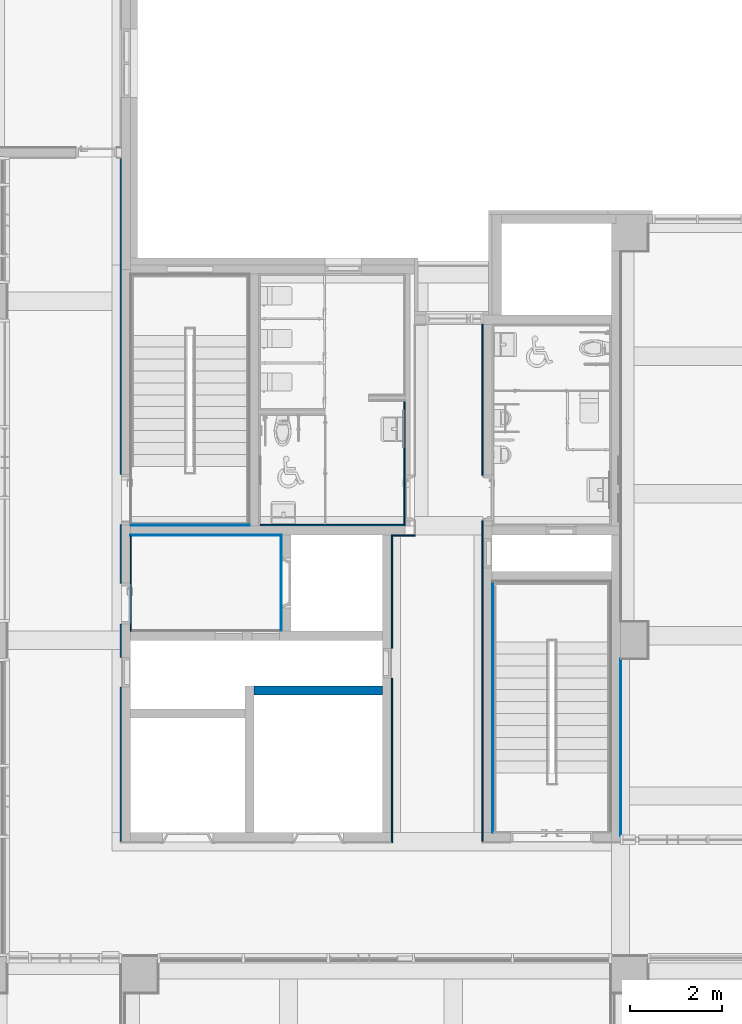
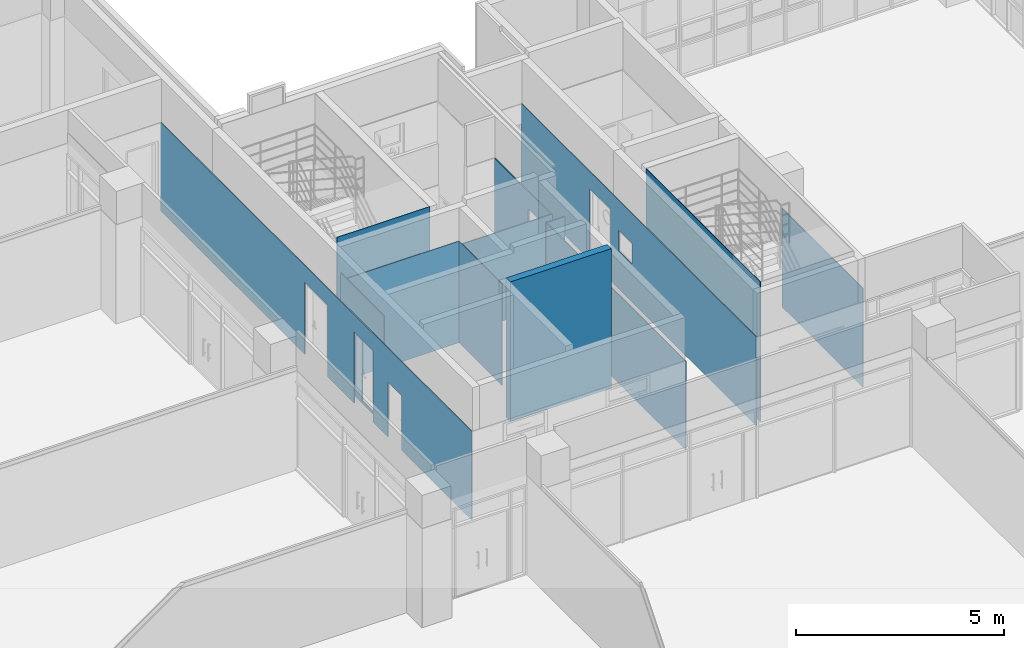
# One storey, part 52 of 76: 13 walls, 8 openings.
"""IFC2X3 building model written with IfcOpenShell, lengths in millimetres."""

from ifc_helpers import new_model, entity, si_unit, converted_unit, derived_unit, direction, frame, frame_2d, origin, place, context, subcontext, project, spatial, rectangle, extrude, material, layer, layer_set, layer_usage, type_object, element, save


model = new_model("IFC2X3")

# Units and contexts
model_context = context("Model", 3, precision=0.01, world=origin(), true_north=direction((6.123031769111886e-17, 1.0)))
body_context = subcontext(model_context, "Body", "Model", "MODEL_VIEW")
ifc_project = project(units=[si_unit("LENGTHUNIT", "METRE", prefix="MILLI"), si_unit("AREAUNIT", "SQUARE_METRE"), si_unit("VOLUMEUNIT", "CUBIC_METRE"), converted_unit("PLANEANGLEUNIT", "DEGREE", entity("IfcRatioMeasure", 0.017453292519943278), si_unit("PLANEANGLEUNIT", "RADIAN"), dimensions=[0, 0, 0, 0, 0, 0, 0]), si_unit("MASSUNIT", "GRAM", prefix="KILO"), derived_unit("MASSDENSITYUNIT", [(si_unit("MASSUNIT", "GRAM", prefix="KILO"), 1), (si_unit("LENGTHUNIT", "METRE"), -3)]), derived_unit("MOMENTOFINERTIAUNIT", [(si_unit("LENGTHUNIT", "METRE"), 4)]), si_unit("TIMEUNIT", "SECOND"), si_unit("FREQUENCYUNIT", "HERTZ"), si_unit("THERMODYNAMICTEMPERATUREUNIT", "DEGREE_CELSIUS"), derived_unit("THERMALTRANSMITTANCEUNIT", [(si_unit("MASSUNIT", "GRAM", prefix="KILO"), 1), (si_unit("THERMODYNAMICTEMPERATUREUNIT", "KELVIN"), -1), (si_unit("TIMEUNIT", "SECOND"), -3)]), derived_unit("VOLUMETRICFLOWRATEUNIT", [(si_unit("LENGTHUNIT", "METRE"), 3), (si_unit("TIMEUNIT", "SECOND"), -1)]), derived_unit("MASSFLOWRATEUNIT", [(si_unit("MASSUNIT", "GRAM", prefix="KILO"), 1), (si_unit("TIMEUNIT", "SECOND"), -1)]), derived_unit("ROTATIONALFREQUENCYUNIT", [(si_unit("TIMEUNIT", "SECOND"), -1)]), si_unit("ELECTRICCURRENTUNIT", "AMPERE"), si_unit("ELECTRICVOLTAGEUNIT", "VOLT"), si_unit("POWERUNIT", "WATT"), si_unit("FORCEUNIT", "NEWTON", prefix="KILO"), si_unit("ILLUMINANCEUNIT", "LUX"), si_unit("LUMINOUSFLUXUNIT", "LUMEN"), si_unit("LUMINOUSINTENSITYUNIT", "CANDELA"), derived_unit("USERDEFINED", [(si_unit("MASSUNIT", "GRAM", prefix="KILO"), -1), (si_unit("LENGTHUNIT", "METRE"), -2), (si_unit("TIMEUNIT", "SECOND"), 3), (si_unit("LUMINOUSFLUXUNIT", "LUMEN"), 1)]), derived_unit("SOUNDPOWERUNIT", [(si_unit("MASSUNIT", "GRAM", prefix="KILO"), 1), (si_unit("LENGTHUNIT", "METRE"), 2), (si_unit("TIMEUNIT", "SECOND"), -3)]), derived_unit("SOUNDPRESSUREUNIT", [(si_unit("MASSUNIT", "GRAM", prefix="KILO"), 1), (si_unit("LENGTHUNIT", "METRE"), -1), (si_unit("TIMEUNIT", "SECOND"), -2)]), derived_unit("LINEARVELOCITYUNIT", [(si_unit("LENGTHUNIT", "METRE"), 1), (si_unit("TIMEUNIT", "SECOND"), -1)]), si_unit("PRESSUREUNIT", "PASCAL"), derived_unit("USERDEFINED", [(si_unit("LENGTHUNIT", "METRE"), -2), (si_unit("MASSUNIT", "GRAM", prefix="KILO"), 1), (si_unit("TIMEUNIT", "SECOND"), -2)]), derived_unit("LINEARFORCEUNIT", [(si_unit("MASSUNIT", "GRAM", prefix="KILO"), 1), (si_unit("LENGTHUNIT", "METRE"), 1), (si_unit("TIMEUNIT", "SECOND"), -2), (si_unit("LENGTHUNIT", "METRE"), -1)]), derived_unit("PLANARFORCEUNIT", [(si_unit("MASSUNIT", "GRAM", prefix="KILO"), 1), (si_unit("LENGTHUNIT", "METRE"), 1), (si_unit("TIMEUNIT", "SECOND"), -2), (si_unit("LENGTHUNIT", "METRE"), -2)])], contexts=[model_context])

# Site, building, storey
site_placement = place(None, frame((-14167.972527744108, -657.2125860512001, 0.0)))
site = spatial("IfcSite", under=ifc_project, at=site_placement, Name="Default", CompositionType="ELEMENT")
building_placement = place(site_placement, origin())
building = spatial("IfcBuilding", under=site, at=building_placement, Name="Sample Building", CompositionType="ELEMENT")
storey_placement = place(building_placement, frame((0.0, 0.0, 9300.0)))
storey = spatial("IfcBuildingStorey", under=building, at=storey_placement, Name="지상 3층", CompositionType="ELEMENT", Elevation=9300.000000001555)

# Walls
ifc_material_1 = material(Name="KBIMS-콘크리트")
ifc_layer_1 = layer(ifc_material_1, 200.0)
ifc_layer_set_1 = layer_set([ifc_layer_1], Name="기본 벽:WA111-철근콘크리트구조 벽 200mm_CW1")
ifc_layer_usage_1 = layer_usage(ifc_layer_set_1, "AXIS2", "NEGATIVE", 100.0)
wall_type_1 = type_object("IfcWallType", Name="기본 벽:WA111-철근콘크리트구조 벽 200mm_CW1", PredefinedType="STANDARD", material=ifc_layer_set_1)
wall_1_placement = place(storey_placement, frame((32967.97271708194, 18857.21230965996, -2.297844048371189e-09)))
element("IfcWallStandardCase", 1, at=wall_1_placement, inside=storey, type_object=wall_type_1, material=ifc_layer_usage_1, Name="기본 벽:WA111-철근콘크리트구조 벽 200mm_CW1", ObjectType="기본 벽:WA111-철근콘크리트구조 벽 200mm_CW1", context=body_context, shape_type="SweptSolid", body=[
    extrude(rectangle(XDim=2799.999774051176, YDim=200.0, at=frame_2d((1399.999887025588, -1.0871303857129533e-12), x_axis=(-1.0, 0.0))), origin(), (0.0, 0.0, 1.0), 4100.000000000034),
])
ifc_material_2 = material(Name="WA611-수성페인트 (내부) 벽 (3회)")
ifc_layer_2 = layer(ifc_material_2, 1.0)
ifc_material_3 = material(Name="WA551-시멘트모르타르 (내부) 벽 18mm")
ifc_layer_3 = layer(ifc_material_3, 16.0)
ifc_material_4 = material(Name="WA555-콘크리트면정리 벽 (내부)")
ifc_layer_4 = layer(ifc_material_4, 1.0)
ifc_layer_set_2 = layer_set([ifc_layer_2, ifc_layer_3, ifc_layer_4], Name="기본 벽:A1-32-06A-콘크리트면정리, 시멘트모르타르(미장용), 수성페인트(내부) (18mm)")
ifc_layer_usage_2 = layer_usage(ifc_layer_set_2, "AXIS2", "POSITIVE", -9.000000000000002)
wall_type_2 = type_object("IfcWallType", Name="기본 벽:A1-32-06A-콘크리트면정리, 시멘트모르타르(미장용), 수성페인트(내부) (18mm)", PredefinedType="STANDARD", material=ifc_layer_set_2)
wall_2_placement = place(storey_placement, frame((32867.97249113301, 22466.21231133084, 0.0), z_axis=(0.0, 0.0, 1.0), x_axis=(-1.0, 0.0, 0.0)))
element("IfcWallStandardCase", 2, at=wall_2_placement, inside=storey, type_object=wall_type_2, material=ifc_layer_usage_2, Name="기본 벽:A1-32-06A-콘크리트면정리, 시멘트모르타르(미장용), 수성페인트(내부) (18mm)", ObjectType="기본 벽:A1-32-06A-콘크리트면정리, 시멘트모르타르(미장용), 수성페인트(내부) (18mm)", context=body_context, shape_type="SweptSolid", body=[
    extrude(rectangle(XDim=2582.2697430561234, YDim=18.00000000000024, at=frame_2d((1291.1348715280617, -2.1662671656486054e-12), x_axis=(-1.0, 0.0))), origin(), (0.0, 0.0, 1.0), 4100.000000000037),
])
ifc_layer_usage_3 = layer_usage(ifc_layer_set_2, "AXIS2", "POSITIVE", -9.000000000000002)
wall_3_placement = place(storey_placement, frame((38176.702784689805, 15757.212295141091, 0.0), z_axis=(0.0, 0.0, 1.0), x_axis=(0.0, 1.0, 0.0)))
element("IfcWallStandardCase", 3, at=wall_3_placement, inside=storey, type_object=wall_type_2, material=ifc_layer_usage_3, Name="기본 벽:A1-32-06A-콘크리트면정리, 시멘트모르타르(미장용), 수성페인트(내부) (18mm)", ObjectType="기본 벽:A1-32-06A-콘크리트면정리, 시멘트모르타르(미장용), 수성페인트(내부) (18mm)", context=body_context, shape_type="SweptSolid", body=[
    extrude(rectangle(XDim=5481.999996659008, YDim=18.00000000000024, at=frame_2d((2740.999998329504, -2.1662671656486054e-12), x_axis=(-1.0, 0.0))), origin(), (0.0, 0.0, 1.0), 4100.000000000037),
])
ifc_layer_usage_4 = layer_usage(ifc_layer_set_2, "AXIS2", "POSITIVE", -9.000000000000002)
wall_4_placement = place(storey_placement, frame((30267.702748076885, 22248.212311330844, 0.0)))
element("IfcWallStandardCase", 4, at=wall_4_placement, inside=storey, type_object=wall_type_2, material=ifc_layer_usage_4, Name="기본 벽:A1-32-06A-콘크리트면정리, 시멘트모르타르(미장용), 수성페인트(내부) (18mm)", ObjectType="기본 벽:A1-32-06A-콘크리트면정리, 시멘트모르타르(미장용), 수성페인트(내부) (18mm)", context=body_context, shape_type="SweptSolid", body=[
    extrude(rectangle(XDim=3282.008729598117, YDim=18.00000000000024, at=frame_2d((1641.0043647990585, -2.1662671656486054e-12), x_axis=(-1.0, 0.0))), origin(), (0.0, 0.0, 1.0), 2980.000000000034),
])

# Wall, opening
ifc_layer_usage_5 = layer_usage(ifc_layer_set_2, "AXIS2", "POSITIVE", -9.000000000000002)
wall_5_placement = place(storey_placement, frame((30276.702748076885, 20157.212307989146, 0.0), z_axis=(0.0, 0.0, 1.0), x_axis=(0.0, 1.0, 0.0)))
wall_5 = element("IfcWallStandardCase", 5, at=wall_5_placement, inside=storey, type_object=wall_type_2, material=ifc_layer_usage_5, Name="기본 벽:A1-32-06A-콘크리트면정리, 시멘트모르타르(미장용), 수성페인트(내부) (18mm)", ObjectType="기본 벽:A1-32-06A-콘크리트면정리, 시멘트모르타르(미장용), 수성페인트(내부) (18mm)", context=body_context, shape_type="SweptSolid", body=[
    extrude(rectangle(XDim=2082.0000033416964, YDim=18.00000000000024, at=frame_2d((1041.0000016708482, -2.1662671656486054e-12), x_axis=(-1.0, 0.0))), origin(), (0.0, 0.0, 1.0), 3200.0),
])
opening_1_placement = place(wall_5_placement, origin())
element("IfcOpeningElement", 6, at=opening_1_placement, cuts=wall_5, Name="기본 벽:A1-32-06A-콘크리트면정리, 시멘트모르타르(미장용), 수성페인트(내부) (18mm)", ObjectType="Opening", context=body_context, shape_type="SweptSolid", body=[
    extrude(rectangle(XDim=2099.9999999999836, YDim=899.999999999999, at=frame_2d((-1.0231815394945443e-12, 2.1600499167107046e-12), x_axis=(1.0, 0.0))), frame((599.9653180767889, -1315.2610134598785, 1130.0), z_axis=(0.0, 1.0, 0.0), x_axis=(0.0, 0.0, 1.0)), (0.0, 0.0, 1.0), 3048.0),
])

# Walls
ifc_layer_usage_6 = layer_usage(ifc_layer_set_2, "AXIS2", "POSITIVE", -9.000000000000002)
wall_6_placement = place(storey_placement, frame((33558.711477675, 22257.212311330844, 0.0), z_axis=(0.0, 0.0, 1.0), x_axis=(0.0, -1.0, 0.0)))
element("IfcWallStandardCase", 7, at=wall_6_placement, inside=storey, type_object=wall_type_2, material=ifc_layer_usage_6, Name="기본 벽:A1-32-06A-콘크리트면정리, 시멘트모르타르(미장용), 수성페인트(내부) (18mm)", ObjectType="기본 벽:A1-32-06A-콘크리트면정리, 시멘트모르타르(미장용), 수성페인트(내부) (18mm)", context=body_context, shape_type="SweptSolid", body=[
    extrude(rectangle(XDim=2082.000003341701, YDim=18.00000000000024, at=frame_2d((1041.0000016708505, -2.76667577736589e-12), x_axis=(-1.0, 0.0))), origin(), (0.0, 0.0, 1.0), 2980.000000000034),
])
ifc_layer_usage_7 = layer_usage(ifc_layer_set_2, "AXIS2", "POSITIVE", -9.000000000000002)
wall_7_placement = place(storey_placement, frame((40976.963798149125, 15674.177624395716, 80.0), z_axis=(0.0, 0.0, 1.0), x_axis=(0.0, 1.0, 0.0)))
element("IfcWallStandardCase", 8, at=wall_7_placement, inside=storey, type_object=wall_type_2, material=ifc_layer_usage_7, Name="기본 벽:A1-32-06A-콘크리트면정리, 시멘트모르타르(미장용), 수성페인트(내부) (18mm)", ObjectType="기본 벽:A1-32-06A-콘크리트면정리, 시멘트모르타르(미장용), 수성페인트(내부) (18mm)", context=body_context, shape_type="SweptSolid", body=[
    extrude(rectangle(XDim=3883.034683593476, YDim=17.999999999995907, at=frame_2d((1941.517341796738, 9.698908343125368e-13), x_axis=(-1.0, 0.0))), origin(), (0.0, 0.0, 1.0), 2899.999999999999),
])

# Wall, openings
ifc_layer_5 = layer(ifc_material_2, 1.0)
ifc_material_5 = material(Name="WA551-시멘트모르타르 (내부) 벽 24mm")
ifc_layer_6 = layer(ifc_material_5, 21.0)
ifc_material_6 = material(Name="WA961-바닥방수 연장")
ifc_layer_7 = layer(ifc_material_6, 1.0)
ifc_layer_8 = layer(ifc_material_4, 1.0)
ifc_layer_set_3 = layer_set([ifc_layer_5, ifc_layer_6, ifc_layer_7, ifc_layer_8], Name="기본 벽:A1-32-07A-콘크리트면정리, 바닥방수연장, 시멘트모르타르(미장용), 수성페인트(내부) (24mm)")
ifc_layer_usage_8 = layer_usage(ifc_layer_set_3, "AXIS2", "NEGATIVE", 12.000000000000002)
wall_type_3 = type_object("IfcWallType", Name="기본 벽:A1-32-07A-콘크리트면정리, 바닥방수연장, 시멘트모르타르(미장용), 수성페인트(내부) (24mm)", PredefinedType="STANDARD", material=ifc_layer_set_3)
wall_8_placement = place(storey_placement, frame((37955.70278468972, 15562.177678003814, 80.0), z_axis=(0.0, 0.0, 1.0), x_axis=(0.0, 1.0, 0.0)))
wall_8 = element("IfcWallStandardCase", 9, at=wall_8_placement, inside=storey, type_object=wall_type_3, material=ifc_layer_usage_8, Name="기본 벽:A1-32-07A-콘크리트면정리, 바닥방수연장, 시멘트모르타르(미장용), 수성페인트(내부) (24mm)", ObjectType="기본 벽:A1-32-07A-콘크리트면정리, 바닥방수연장, 시멘트모르타르(미장용), 수성페인트(내부) (24mm)", context=body_context, shape_type="SweptSolid", body=[
    extrude(rectangle(XDim=11295.034617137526, YDim=23.999999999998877, at=frame_2d((5647.517308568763, 2.1662671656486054e-12), x_axis=(1.0, 0.0))), origin(), (0.0, 0.0, 1.0), 2600.0000000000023),
])
opening_2_placement = place(wall_8_placement, origin())
element("IfcOpeningElement", 10, at=opening_2_placement, cuts=wall_8, Name="기본 벽:A1-32-07A-콘크리트면정리, 바닥방수연장, 시멘트모르타르(미장용), 수성페인트(내부) (24mm)", ObjectType="Opening", context=body_context, shape_type="SweptSolid", body=[
    extrude(rectangle(XDim=2099.9999999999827, YDim=999.999999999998, at=frame_2d((-5.684341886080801e-13, 0.0), x_axis=(1.0, 0.0))), frame((7501.495140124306, -1536.2610134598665, 1050.0), z_axis=(0.0, 1.0, 0.0), x_axis=(0.0, 0.0, 1.0)), (0.0, 0.0, 1.0), 3048.0),
])
opening_3_placement = place(wall_8_placement, origin())
element("IfcOpeningElement", 11, at=opening_3_placement, cuts=wall_8, Name="기본 벽:A1-32-07A-콘크리트면정리, 바닥방수연장, 시멘트모르타르(미장용), 수성페인트(내부) (24mm)", ObjectType="Opening", context=body_context, shape_type="SweptSolid", body=[
    extrude(rectangle(XDim=600.0, YDim=649.9999999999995, at=frame_2d((0.0, -1.0800249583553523e-12), x_axis=(0.0, 1.0))), frame((6295.0, -1736.2610134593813, 1420.0), z_axis=(0.0, 1.0, 0.0), x_axis=(-1.0, 0.0, 0.0)), (0.0, 0.0, 1.0), 3048.0),
])

# Wall
ifc_layer_usage_9 = layer_usage(ifc_layer_set_3, "AXIS2", "NEGATIVE", 12.000000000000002)
wall_9_placement = place(storey_placement, frame((36491.96381659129, 22245.212311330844, 80.0), z_axis=(0.0, 0.0, 1.0), x_axis=(-1.0, 0.0, 0.0)))
element("IfcWallStandardCase", 12, at=wall_9_placement, inside=storey, type_object=wall_type_3, material=ifc_layer_usage_9, Name="기본 벽:A1-32-07A-콘크리트면정리, 바닥방수연장, 시멘트모르타르(미장용), 수성페인트(내부) (24mm)", ObjectType="기본 벽:A1-32-07A-콘크리트면정리, 바닥방수연장, 시멘트모르타르(미장용), 수성페인트(내부) (24mm)", context=body_context, shape_type="SweptSolid", body=[
    extrude(rectangle(XDim=523.991325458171, YDim=23.999999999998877, at=frame_2d((261.9956627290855, 2.1662671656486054e-12), x_axis=(-1.0, 0.0))), origin(), (0.0, 0.0, 1.0), 2600.0000000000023),
])

# Wall, opening
ifc_layer_usage_10 = layer_usage(ifc_layer_set_3, "AXIS2", "NEGATIVE", 12.000000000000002)
wall_10_placement = place(storey_placement, frame((35979.71147767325, 22233.212311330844, 80.0), z_axis=(0.0, 0.0, 1.0), x_axis=(0.0, -1.0, 0.0)))
wall_10 = element("IfcWallStandardCase", 13, at=wall_10_placement, inside=storey, type_object=wall_type_3, material=ifc_layer_usage_10, Name="기본 벽:A1-32-07A-콘크리트면정리, 바닥방수연장, 시멘트모르타르(미장용), 수성페인트(내부) (24mm)", ObjectType="기본 벽:A1-32-07A-콘크리트면정리, 바닥방수연장, 시멘트모르타르(미장용), 수성페인트(내부) (24mm)", context=body_context, shape_type="SweptSolid", body=[
    extrude(rectangle(XDim=6699.909364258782, YDim=23.999999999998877, at=frame_2d((3349.954682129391, 2.1751489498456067e-12), x_axis=(1.0, 0.0))), origin(), (0.0, 0.0, 1.0), 2600.0000000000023),
])
opening_4_placement = place(wall_10_placement, origin())
element("IfcOpeningElement", 14, at=opening_4_placement, cuts=wall_10, Name="기본 벽:A1-32-07A-콘크리트면정리, 바닥방수연장, 시멘트모르타르(미장용), 수성페인트(내부) (24mm)", ObjectType="Opening", context=body_context, shape_type="SweptSolid", body=[
    extrude(rectangle(XDim=1600.0000000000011, YDim=649.9999999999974, at=frame_2d((-1.0800249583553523e-12, -5.684341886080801e-13), x_axis=(0.0, 1.0))), frame((2776.0, -1735.7389865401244, 800.0), z_axis=(0.0, 1.0, 0.0), x_axis=(-1.0, 0.0, 0.0)), (0.0, 0.0, 1.0), 3048.0),
])

# Wall, openings
ifc_layer_usage_11 = layer_usage(ifc_layer_set_3, "AXIS2", "NEGATIVE", 12.000000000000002)
wall_11_placement = place(storey_placement, frame((30055.96376153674, 15557.302947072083, 80.0), z_axis=(0.0, 0.0, 1.0), x_axis=(0.0, 1.0, 0.0)))
wall_11 = element("IfcWallStandardCase", 15, at=wall_11_placement, inside=storey, type_object=wall_type_3, material=ifc_layer_usage_11, Name="기본 벽:A1-32-07A-콘크리트면정리, 바닥방수연장, 시멘트모르타르(미장용), 수성페인트(내부) (24mm)", ObjectType="기본 벽:A1-32-07A-콘크리트면정리, 바닥방수연장, 시멘트모르타르(미장용), 수성페인트(내부) (24mm)", context=body_context, shape_type="SweptSolid", body=[
    extrude(rectangle(XDim=14949.909328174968, YDim=23.999999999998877, at=frame_2d((7474.954664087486, 2.162714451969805e-12), x_axis=(1.0, 0.0))), origin(), (0.0, 0.0, 1.0), 2600.0000000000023),
])
opening_5_placement = place(wall_11_placement, origin())
element("IfcOpeningElement", 16, at=opening_5_placement, cuts=wall_11, Name="기본 벽:A1-32-07A-콘크리트면정리, 바닥방수연장, 시멘트모르타르(미장용), 수성페인트(내부) (24mm)", ObjectType="Opening", context=body_context, shape_type="SweptSolid", body=[
    extrude(rectangle(XDim=1600.0, YDim=649.9999999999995, at=frame_2d((0.0, 0.0), x_axis=(0.0, 1.0))), frame((3699.8747316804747, -1736.0, 800.0), z_axis=(0.0, 1.0, 0.0), x_axis=(-1.0, 0.0, 0.0)), (0.0, 0.0, 1.0), 3048.0),
])
opening_6_placement = place(wall_11_placement, origin())
element("IfcOpeningElement", 17, at=opening_6_placement, cuts=wall_11, Name="기본 벽:A1-32-07A-콘크리트면정리, 바닥방수연장, 시멘트모르타르(미장용), 수성페인트(내부) (24mm)", ObjectType="Opening", context=body_context, shape_type="SweptSolid", body=[
    extrude(rectangle(XDim=2099.9999999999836, YDim=899.999999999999, at=frame_2d((-1.0231815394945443e-12, 2.1600499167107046e-12), x_axis=(1.0, 0.0))), frame((5199.874678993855, -1536.0, 1050.0), z_axis=(0.0, 1.0, 0.0), x_axis=(0.0, 0.0, 1.0)), (0.0, 0.0, 1.0), 3048.0),
])
opening_7_placement = place(wall_11_placement, origin())
element("IfcOpeningElement", 18, at=opening_7_placement, cuts=wall_11, Name="기본 벽:A1-32-07A-콘크리트면정리, 바닥방수연장, 시멘트모르타르(미장용), 수성페인트(내부) (24mm)", ObjectType="Opening", context=body_context, shape_type="SweptSolid", body=[
    extrude(rectangle(XDim=2099.9999999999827, YDim=1100.0000000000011, at=frame_2d((-5.684341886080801e-13, 0.0), x_axis=(1.0, 0.0))), frame((7469.874680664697, -1536.0, 1050.0), z_axis=(0.0, 1.0, 0.0), x_axis=(0.0, 0.0, 1.0)), (0.0, 0.0, 1.0), 3048.0),
])

# Wall, opening
ifc_material_7 = material(Name="WA352-도기질타일 벽 200x200")
ifc_layer_9 = layer(ifc_material_7, 8.0)
ifc_material_8 = material(Name="WA551-시멘트모르타르 (내부) 벽 22mm")
ifc_layer_10 = layer(ifc_material_8, 22.0)
ifc_layer_set_4 = layer_set([ifc_layer_9, ifc_layer_10], Name="기본 벽:A1-33-01B-시멘트 모르타르, 도기질타일 (30mm)")
ifc_layer_usage_12 = layer_usage(ifc_layer_set_4, "AXIS2", "POSITIVE", -15.0)
wall_type_4 = type_object("IfcWallType", Name="기본 벽:A1-33-01B-시멘트 모르타르, 도기질타일 (30mm)", PredefinedType="STANDARD", material=ifc_layer_set_4)
wall_12_placement = place(storey_placement, frame((36252.96379815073, 22487.212311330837, 40.0), z_axis=(0.0, 0.0, 1.0), x_axis=(0.0, 1.0, 0.0)))
wall_12 = element("IfcWallStandardCase", 19, at=wall_12_placement, inside=storey, type_object=wall_type_4, material=ifc_layer_usage_12, Name="기본 벽:A1-33-01B-시멘트 모르타르, 도기질타일 (30mm)", ObjectType="기본 벽:A1-33-01B-시멘트 모르타르, 도기질타일 (30mm)", context=body_context, shape_type="SweptSolid", body=[
    extrude(rectangle(XDim=2689.999998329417, YDim=30.000000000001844, at=frame_2d((1344.9999991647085, 1.0649259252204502e-12), x_axis=(-1.0, 0.0))), origin(), (0.0, 0.0, 1.0), 2649.9999999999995),
])
opening_8_placement = place(wall_12_placement, origin())
element("IfcOpeningElement", 20, at=opening_8_placement, cuts=wall_12, Name="기본 벽:A1-33-01B-시멘트 모르타르, 도기질타일 (30mm)", ObjectType="Opening", context=body_context, shape_type="SweptSolid", body=[
    extrude(rectangle(XDim=2099.9999999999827, YDim=999.999999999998, at=frame_2d((-5.684341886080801e-13, 0.0), x_axis=(1.0, 0.0))), frame((576.4605067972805, -1739.0, 1090.0), z_axis=(0.0, 1.0, 0.0), x_axis=(0.0, 0.0, 1.0)), (0.0, 0.0, 1.0), 3048.0),
])

# Wall
ifc_layer_usage_13 = layer_usage(ifc_layer_set_4, "AXIS2", "POSITIVE", -15.0)
wall_13_placement = place(storey_placement, frame((33097.98122724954, 22472.212311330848, 40.0)))
element("IfcWallStandardCase", 21, at=wall_13_placement, inside=storey, type_object=wall_type_4, material=ifc_layer_usage_13, Name="기본 벽:A1-33-01B-시멘트 모르타르, 도기질타일 (30mm)", ObjectType="기본 벽:A1-33-01B-시멘트 모르타르, 도기질타일 (30mm)", context=body_context, shape_type="SweptSolid", body=[
    extrude(rectangle(XDim=3169.982570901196, YDim=30.00000000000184, at=frame_2d((1584.991285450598, 7.016609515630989e-13), x_axis=(-1.0, 0.0))), origin(), (0.0, 0.0, 1.0), 2649.9999999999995),
])

save(model, "model.ifc")
